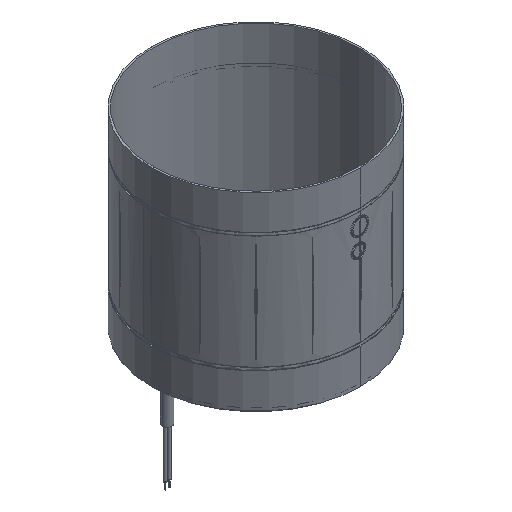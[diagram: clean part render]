
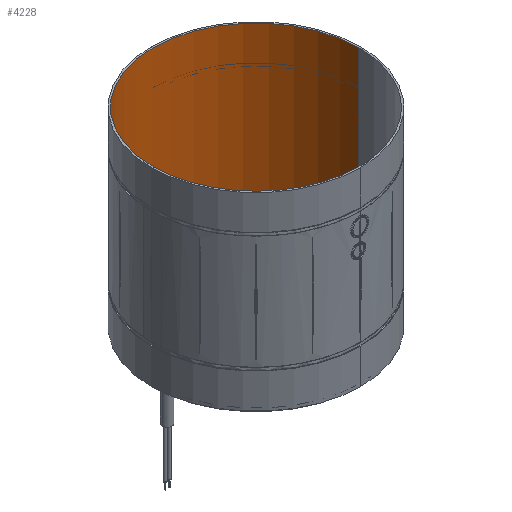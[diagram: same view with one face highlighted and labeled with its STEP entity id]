
A CAD part, isometric view. The second image highlights one B-rep face of the part: STEP entity #4228.
In plain terms, the highlighted cylindrical face has radius 73.25 mm (diameter 146.5 mm), a partial arc.
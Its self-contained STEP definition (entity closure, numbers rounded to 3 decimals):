
#178 = VECTOR ( 'NONE', #5486, 1000. ) ;
#180 = LINE ( 'NONE', #5267, #178 ) ;
#320 = CIRCLE ( 'NONE', #6375, 73.25 ) ;
#1509 = CARTESIAN_POINT ( 'NONE',  ( -73.25, 0., 175.341 ) ) ;
#1540 = CARTESIAN_POINT ( 'NONE',  ( 73.25, 0., 175.341 ) ) ;
#1616 = CARTESIAN_POINT ( 'NONE',  ( 73.25, 0., 42.341 ) ) ;
#1648 = CARTESIAN_POINT ( 'NONE',  ( 0., 0., 42.341 ) ) ;
#1898 = DIRECTION ( 'NONE',  ( 0., 0., 1. ) ) ;
#2055 = DIRECTION ( 'NONE',  ( 1., 0., 0. ) ) ;
#2194 = CARTESIAN_POINT ( 'NONE',  ( -73.25, 0., 42.341 ) ) ;
#2625 = LINE ( 'NONE', #4646, #5554 ) ;
#2669 = DIRECTION ( 'NONE',  ( 1., 0., 0. ) ) ;
#2831 = DIRECTION ( 'NONE',  ( 0., 0., 1. ) ) ;
#3156 = CARTESIAN_POINT ( 'NONE',  ( 0., 0., 42.341 ) ) ;
#3397 = FACE_OUTER_BOUND ( 'NONE', #5093, .T. ) ;
#3502 = CYLINDRICAL_SURFACE ( 'NONE', #7070, 73.25 ) ;
#3771 = CIRCLE ( 'NONE', #7058, 73.25 ) ;
#4018 = DIRECTION ( 'NONE',  ( 0., 0., 1. ) ) ;
#4156 = CARTESIAN_POINT ( 'NONE',  ( 0., 0., 175.341 ) ) ;
#4228 = ADVANCED_FACE ( 'NONE', ( #3397 ), #3502, .F. ) ;
#4399 = DIRECTION ( 'NONE',  ( 1., 0., 0. ) ) ;
#4646 = CARTESIAN_POINT ( 'NONE',  ( -73.25, 0., 42.341 ) ) ;
#4708 = DIRECTION ( 'NONE',  ( 0., 0., 1. ) ) ;
#5093 = EDGE_LOOP ( 'NONE', ( #6178, #6373, #6389, #6327 ) ) ;
#5267 = CARTESIAN_POINT ( 'NONE',  ( 73.25, 0., 42.341 ) ) ;
#5486 = DIRECTION ( 'NONE',  ( 0., 0., 1. ) ) ;
#5554 = VECTOR ( 'NONE', #4708, 1000. ) ;
#5835 = VERTEX_POINT ( 'NONE', #1540 ) ;
#5840 = VERTEX_POINT ( 'NONE', #1509 ) ;
#5845 = VERTEX_POINT ( 'NONE', #1616 ) ;
#5912 = VERTEX_POINT ( 'NONE', #2194 ) ;
#6178 = ORIENTED_EDGE ( 'NONE', *, *, #6852, .F. ) ;
#6327 = ORIENTED_EDGE ( 'NONE', *, *, #6773, .T. ) ;
#6373 = ORIENTED_EDGE ( 'NONE', *, *, #6953, .F. ) ;
#6375 = AXIS2_PLACEMENT_3D ( 'NONE', #1648, #1898, #2055 ) ;
#6389 = ORIENTED_EDGE ( 'NONE', *, *, #7233, .T. ) ;
#6773 = EDGE_CURVE ( 'NONE', #5835, #5840, #3771, .T. ) ;
#6852 = EDGE_CURVE ( 'NONE', #5912, #5840, #2625, .T. ) ;
#6953 = EDGE_CURVE ( 'NONE', #5845, #5912, #320, .T. ) ;
#7058 = AXIS2_PLACEMENT_3D ( 'NONE', #4156, #4018, #4399 ) ;
#7070 = AXIS2_PLACEMENT_3D ( 'NONE', #3156, #2831, #2669 ) ;
#7233 = EDGE_CURVE ( 'NONE', #5845, #5835, #180, .T. ) ;
